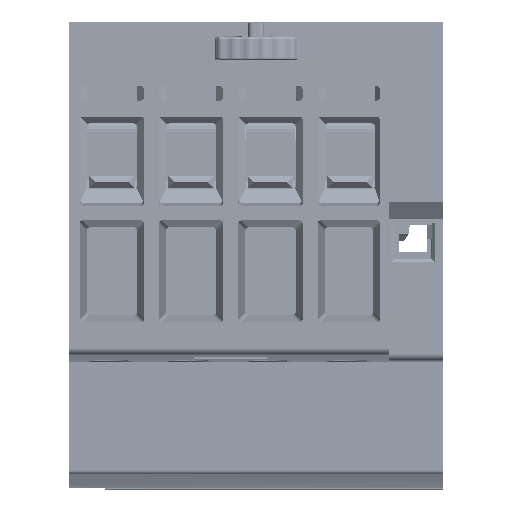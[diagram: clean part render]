
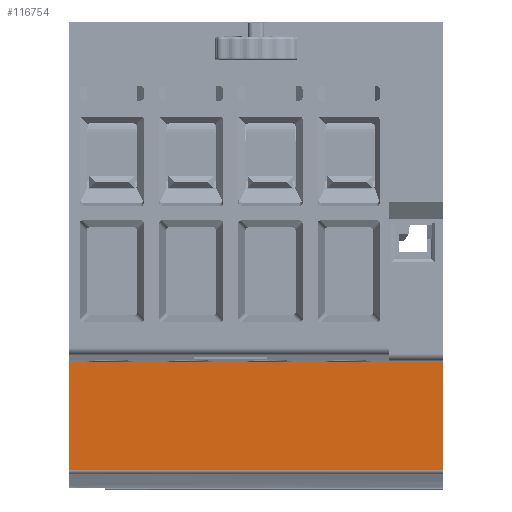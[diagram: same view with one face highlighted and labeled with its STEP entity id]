
A CAD part, front view. The second image highlights one B-rep face of the part: STEP entity #116754.
In plain terms, the highlighted planar face has unit normal (0, -1, -0.011) as drawn and (1, 0, 0.01) by its records, which use the part's own axes.
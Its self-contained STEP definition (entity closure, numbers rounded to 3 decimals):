
#712 = EDGE_CURVE ( 'NONE', #65745, #13686, #35896, .T. ) ;
#2909 = DIRECTION ( 'NONE',  ( 0., 1., 0. ) ) ;
#4732 = DIRECTION ( 'NONE',  ( 0.01, 0., -1. ) ) ;
#5402 = EDGE_CURVE ( 'NONE', #9644, #31760, #103506, .T. ) ;
#5907 = CARTESIAN_POINT ( 'NONE',  ( 9.894, 166.405, 39.262 ) ) ;
#6277 = CARTESIAN_POINT ( 'NONE',  ( 9.868, 166.405, 42.328 ) ) ;
#8402 = VECTOR ( 'NONE', #4732, 1000. ) ;
#9644 = VERTEX_POINT ( 'NONE', #135547 ) ;
#10670 = CARTESIAN_POINT ( 'NONE',  ( 9.91, 161.055, 37.728 ) ) ;
#13484 = ORIENTED_EDGE ( 'NONE', *, *, #5402, .T. ) ;
#13561 = ORIENTED_EDGE ( 'NONE', *, *, #42297, .F. ) ;
#13686 = VERTEX_POINT ( 'NONE', #120582 ) ;
#14248 = CARTESIAN_POINT ( 'NONE',  ( 9.878, 166.405, 40.795 ) ) ;
#16473 = EDGE_CURVE ( 'NONE', #82055, #71229, #140834, .T. ) ;
#18697 = LINE ( 'NONE', #41239, #21452 ) ;
#19129 = CARTESIAN_POINT ( 'NONE',  ( 9.871, 164.785, 41.428 ) ) ;
#19981 = VERTEX_POINT ( 'NONE', #120744 ) ;
#20344 = EDGE_CURVE ( 'NONE', #82055, #19981, #40081, .T. ) ;
#21452 = VECTOR ( 'NONE', #127992, 1000. ) ;
#25312 = CARTESIAN_POINT ( 'NONE',  ( 9.856, 112.305, 42.928 ) ) ;
#26990 = LINE ( 'NONE', #76004, #139836 ) ;
#28646 = CARTESIAN_POINT ( 'NONE',  ( 9.891, 110.83, 39.528 ) ) ;
#31760 = VERTEX_POINT ( 'NONE', #10670 ) ;
#32205 = ORIENTED_EDGE ( 'NONE', *, *, #97372, .T. ) ;
#35896 = B_SPLINE_CURVE_WITH_KNOTS ( 'NONE', 3,
 ( #19129, #139708, #65790, #6277 ),
 .UNSPECIFIED., .F., .F.,
 ( 4, 4 ),
 ( 0., 1. ),
 .UNSPECIFIED. ) ;
#36335 = VECTOR ( 'NONE', #135943, 1000. ) ;
#36493 = EDGE_CURVE ( 'NONE', #42493, #63792, #86928, .T. ) ;
#38353 = FACE_OUTER_BOUND ( 'NONE', #63054, .T. ) ;
#40081 = LINE ( 'NONE', #65774, #147670 ) ;
#40713 = DIRECTION ( 'NONE',  ( 1., 0., 0.01 ) ) ;
#41224 = CARTESIAN_POINT ( 'NONE',  ( 9.856, 164.355, 42.928 ) ) ;
#41239 = CARTESIAN_POINT ( 'NONE',  ( 9.691, 166.405, 58.612 ) ) ;
#42297 = EDGE_CURVE ( 'NONE', #19981, #65745, #151508, .T. ) ;
#42493 = VERTEX_POINT ( 'NONE', #55431 ) ;
#42890 = B_SPLINE_CURVE_WITH_KNOTS ( 'NONE', 3,
 ( #124329, #5907, #14248, #149245 ),
 .UNSPECIFIED., .F., .F.,
 ( 4, 4 ),
 ( 0., 1. ),
 .UNSPECIFIED. ) ;
#48338 = CARTESIAN_POINT ( 'NONE',  ( 9.871, 164.498, 41.428 ) ) ;
#50131 = VECTOR ( 'NONE', #116680, 1000. ) ;
#53508 = EDGE_CURVE ( 'NONE', #31760, #153186, #122999, .T. ) ;
#55184 = CARTESIAN_POINT ( 'NONE',  ( 9.856, 166.405, 42.928 ) ) ;
#55431 = CARTESIAN_POINT ( 'NONE',  ( 9.691, 112.305, 58.612 ) ) ;
#55489 = CARTESIAN_POINT ( 'NONE',  ( 9.856, 166.405, 42.928 ) ) ;
#56757 = LINE ( 'NONE', #55184, #152133 ) ;
#63054 = EDGE_LOOP ( 'NONE', ( #32205, #13484, #74533, #124594, #83949, #13561, #141831, #106175, #130657, #101107, #80594 ) ) ;
#63792 = VERTEX_POINT ( 'NONE', #25312 ) ;
#64854 = PLANE ( 'NONE',  #154072 ) ;
#65020 = CARTESIAN_POINT ( 'NONE',  ( 9.856, 161.055, 42.928 ) ) ;
#65745 = VERTEX_POINT ( 'NONE', #75642 ) ;
#65774 = CARTESIAN_POINT ( 'NONE',  ( 9.856, 164.355, 42.928 ) ) ;
#65790 = CARTESIAN_POINT ( 'NONE',  ( 9.869, 165.865, 42.028 ) ) ;
#67612 = CARTESIAN_POINT ( 'NONE',  ( 9.691, 166.405, 58.612 ) ) ;
#71229 = VERTEX_POINT ( 'NONE', #55489 ) ;
#74533 = ORIENTED_EDGE ( 'NONE', *, *, #53508, .T. ) ;
#74666 = DIRECTION ( 'NONE',  ( 0.01, 0., -1. ) ) ;
#75642 = CARTESIAN_POINT ( 'NONE',  ( 9.871, 164.785, 41.428 ) ) ;
#76004 = CARTESIAN_POINT ( 'NONE',  ( 9.856, 112.305, 42.928 ) ) ;
#80594 = ORIENTED_EDGE ( 'NONE', *, *, #36493, .T. ) ;
#81753 = EDGE_CURVE ( 'NONE', #71229, #127748, #56757, .T. ) ;
#82055 = VERTEX_POINT ( 'NONE', #90386 ) ;
#83949 = ORIENTED_EDGE ( 'NONE', *, *, #712, .F. ) ;
#84481 = CARTESIAN_POINT ( 'NONE',  ( 9.871, 164.642, 41.428 ) ) ;
#86928 = LINE ( 'NONE', #100582, #36335 ) ;
#90386 = CARTESIAN_POINT ( 'NONE',  ( 9.856, 164.355, 42.928 ) ) ;
#97372 = EDGE_CURVE ( 'NONE', #63792, #9644, #26990, .T. ) ;
#100582 = CARTESIAN_POINT ( 'NONE',  ( 9.691, 112.305, 58.612 ) ) ;
#101107 = ORIENTED_EDGE ( 'NONE', *, *, #121699, .T. ) ;
#103506 = LINE ( 'NONE', #65020, #8402 ) ;
#105309 = CARTESIAN_POINT ( 'NONE',  ( 9.91, 161.055, 37.728 ) ) ;
#106175 = ORIENTED_EDGE ( 'NONE', *, *, #16473, .T. ) ;
#106212 = CARTESIAN_POINT ( 'NONE',  ( 9.871, 164.785, 41.428 ) ) ;
#116680 = DIRECTION ( 'NONE',  ( 0., 1., 0. ) ) ;
#116754 = ADVANCED_FACE ( 'NONE', ( #38353 ), #64854, .T. ) ;
#117341 = CARTESIAN_POINT ( 'NONE',  ( 9.91, 164.622, 37.728 ) ) ;
#120582 = CARTESIAN_POINT ( 'NONE',  ( 9.868, 166.405, 42.328 ) ) ;
#120744 = CARTESIAN_POINT ( 'NONE',  ( 9.871, 164.355, 41.428 ) ) ;
#121699 = EDGE_CURVE ( 'NONE', #127748, #42493, #18697, .T. ) ;
#122999 = B_SPLINE_CURVE_WITH_KNOTS ( 'NONE', 3,
 ( #105309, #143060, #117341, #127848 ),
 .UNSPECIFIED., .F., .F.,
 ( 4, 4 ),
 ( 0., 1. ),
 .UNSPECIFIED. ) ;
#124329 = CARTESIAN_POINT ( 'NONE',  ( 9.905, 166.405, 37.728 ) ) ;
#124594 = ORIENTED_EDGE ( 'NONE', *, *, #136408, .T. ) ;
#125109 = DIRECTION ( 'NONE',  ( 0., -1., 0. ) ) ;
#127748 = VERTEX_POINT ( 'NONE', #67612 ) ;
#127848 = CARTESIAN_POINT ( 'NONE',  ( 9.905, 166.405, 37.728 ) ) ;
#127992 = DIRECTION ( 'NONE',  ( 0., -1., 0. ) ) ;
#129891 = DIRECTION ( 'NONE',  ( -0.01, 0., 1. ) ) ;
#130657 = ORIENTED_EDGE ( 'NONE', *, *, #81753, .T. ) ;
#135547 = CARTESIAN_POINT ( 'NONE',  ( 9.856, 161.055, 42.928 ) ) ;
#135943 = DIRECTION ( 'NONE',  ( 0.01, 0., -1. ) ) ;
#136408 = EDGE_CURVE ( 'NONE', #153186, #13686, #42890, .T. ) ;
#138403 = CARTESIAN_POINT ( 'NONE',  ( 9.905, 166.405, 37.728 ) ) ;
#139708 = CARTESIAN_POINT ( 'NONE',  ( 9.87, 165.325, 41.728 ) ) ;
#139836 = VECTOR ( 'NONE', #2909, 1000. ) ;
#140834 = LINE ( 'NONE', #41224, #50131 ) ;
#141831 = ORIENTED_EDGE ( 'NONE', *, *, #20344, .F. ) ;
#143060 = CARTESIAN_POINT ( 'NONE',  ( 9.91, 162.838, 37.728 ) ) ;
#147670 = VECTOR ( 'NONE', #74666, 1000. ) ;
#149245 = CARTESIAN_POINT ( 'NONE',  ( 9.868, 166.405, 42.328 ) ) ;
#151508 = B_SPLINE_CURVE_WITH_KNOTS ( 'NONE', 3,
 ( #156020, #48338, #84481, #106212 ),
 .UNSPECIFIED., .F., .F.,
 ( 4, 4 ),
 ( 0., 1. ),
 .UNSPECIFIED. ) ;
#152133 = VECTOR ( 'NONE', #129891, 1000. ) ;
#153186 = VERTEX_POINT ( 'NONE', #138403 ) ;
#154072 = AXIS2_PLACEMENT_3D ( 'NONE', #28646, #40713, #125109 ) ;
#156020 = CARTESIAN_POINT ( 'NONE',  ( 9.871, 164.355, 41.428 ) ) ;
